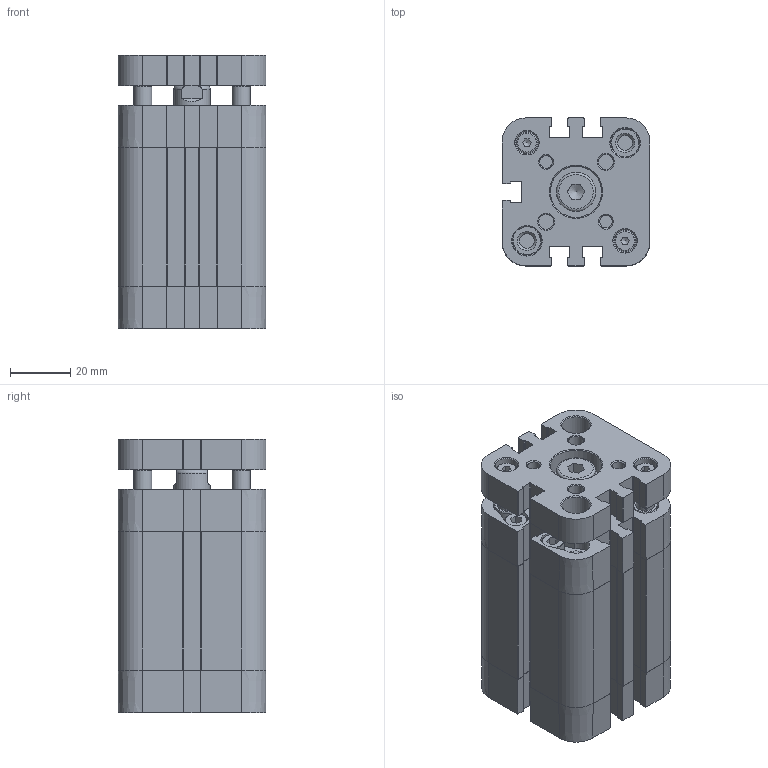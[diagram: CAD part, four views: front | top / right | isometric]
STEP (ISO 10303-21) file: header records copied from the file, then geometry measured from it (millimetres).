
FILE_DESCRIPTION(/* description */ ('Unknown'),/* implementation_level */ '2;1');
FILE_NAME(/* name */ 'ZINT 32_30',/* time_stamp */ '2024-11-12T08:31:35+01:00',/* author */ ('Unknown'),/* organization */ ('HAFNER Pneumatika Kft.'),/* preprocessor_version */ 'ST-DEVELOPER v18.102',/* originating_system */ 'Solid Edge',/* authorisation */ 'Unknown');
FILE_SCHEMA (('AUTOMOTIVE_DESIGN {1 0 10303 214 3 1 1}'));
Length unit declared in the file: millimetre
Products named in the file (7): ZINT 32_30; Führungsstange; Profilrohr; Platte; Kolbenstange; Kit_2; Kit_1
Assembly tree (7 placements, depth 2):
  ZINT 32_30
    Führungsstange  x2
    Profilrohr
    Platte
    Kolbenstange
    Kit_2
    Kit_1
Bounding box: 49 x 49 x 90.5 mm (x, y, z)
Volume: 151119.7 mm3; surface area: 57035.7 mm2
Topology: 7 solids, 13 shells, 866 faces, 2292 edges, 1509 vertices
Faces by surface type: plane 415, cylinder 238, bspline 112, cone 66, torus 35
Full cylindrical faces by diameter (mm): 2.5 x2, 3.242 x2, 4.134 x2, 4.6 x2, 4.917 x6, 5 x2, 5.2 x4, 6 x2, 6.647 x1, 7 x2, 7.5 x10, 8 x2, 8.566 x2, 9 x1, 9.5 x2, 12 x1, 12.54 x1, 13 x1, 13.7 x1, 14 x1, 16.32 x1, 16.5 x1, 17 x1, 32 x2
Entity records: 32113 total; most frequent: CARTESIAN_POINT 6450, ORIENTED_EDGE 4220, DIRECTION 3912, EDGE_CURVE 2110, VERTEX_POINT 1459, AXIS2_PLACEMENT_3D 1318, LINE 1276, VECTOR 1276
